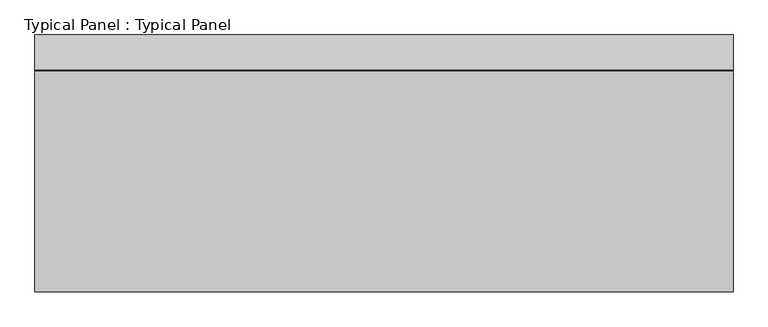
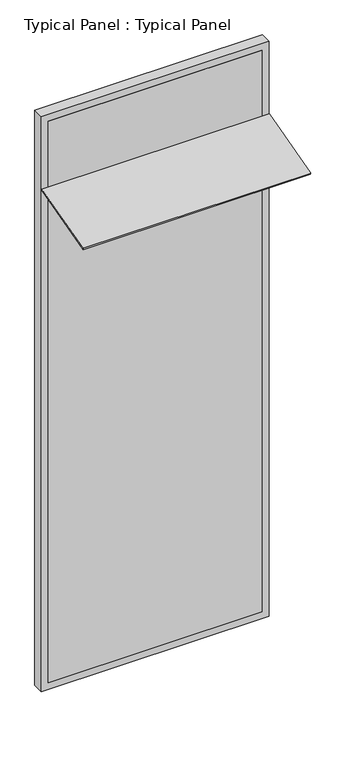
"""IFC4 building model written with IfcOpenShell, lengths in millimetres: plate geometry, Typical Panel : Typical Panel."""

from ifc_helpers import new_model, si_unit, frame, origin, place, context, project, spatial, polyline, outline, extrude, source, transform, mapped, element, save


def typical_panel_typical_panel_dc0afd6a(model_context):
    return source(origin(), model_context, "Body", "SweptSolid", [
        extrude(outline(polyline([(0.0, -490.0), (0.0, 0.0), (1500.0, 0.0), (1500.0, -490.0), (0.0, -490.0)])), frame((750.0, -475.7154644, 3363.5194096), z_axis=(0.0, -0.2588190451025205, 0.9659258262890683), x_axis=(-1.0, 0.0, 0.0)), (0.0, 0.0, 1.0), 10.0),
        extrude(outline(polyline([(0.0, -750.0), (0.0, 750.0), (4000.0, 750.0), (4000.0, -750.0), (0.0, -750.0)]), holes=[polyline([(45.0, 705.0), (45.0, -705.0), (3955.0, -705.0), (3955.0, 705.0), (45.0, 705.0)])]), frame((0.0, -1.5797986, 0.0), z_axis=(0.0, 1.0, 0.0), x_axis=(0.0, 0.0, 1.0)), (0.0, 0.0, 1.0), 75.0),
        extrude(outline(polyline([(705.0, -1.5797986), (-705.0, -1.5797986), (-705.0, 13.4202014), (705.0, 13.4202014), (705.0, -1.5797986)])), frame((0.0, 0.0, 45.0), z_axis=(0.0, 0.0, 1.0), x_axis=(1.0, 0.0, 0.0)), (0.0, 0.0, 1.0), 3910.0),
    ])


if __name__ == "__main__":
    model = new_model("IFC4")
    model_context = context("Model", 3, world=origin())
    ifc_project = project(units=[si_unit("LENGTHUNIT", "METRE", prefix="MILLI")], contexts=[model_context])
    site = spatial("IfcSite", under=ifc_project)
    building = spatial("IfcBuilding", under=site)
    placement = place(None, origin())
    typical_panel_typical_panel_shape = typical_panel_typical_panel_dc0afd6a(model_context)
    element("IfcPlate", 1, ObjectType="Typical Panel : Typical Panel", at=placement, inside=building, context=model_context, shape_type="MappedRepresentation", body=[
        mapped(typical_panel_typical_panel_shape, transform((0.0, 0.0, 0.0), x_axis=(1.0, 0.0, 0.0), y_axis=(0.0, 1.0, 0.0), z_axis=(0.0, 0.0, 1.0))),
    ])
    save(model, "model.ifc")
